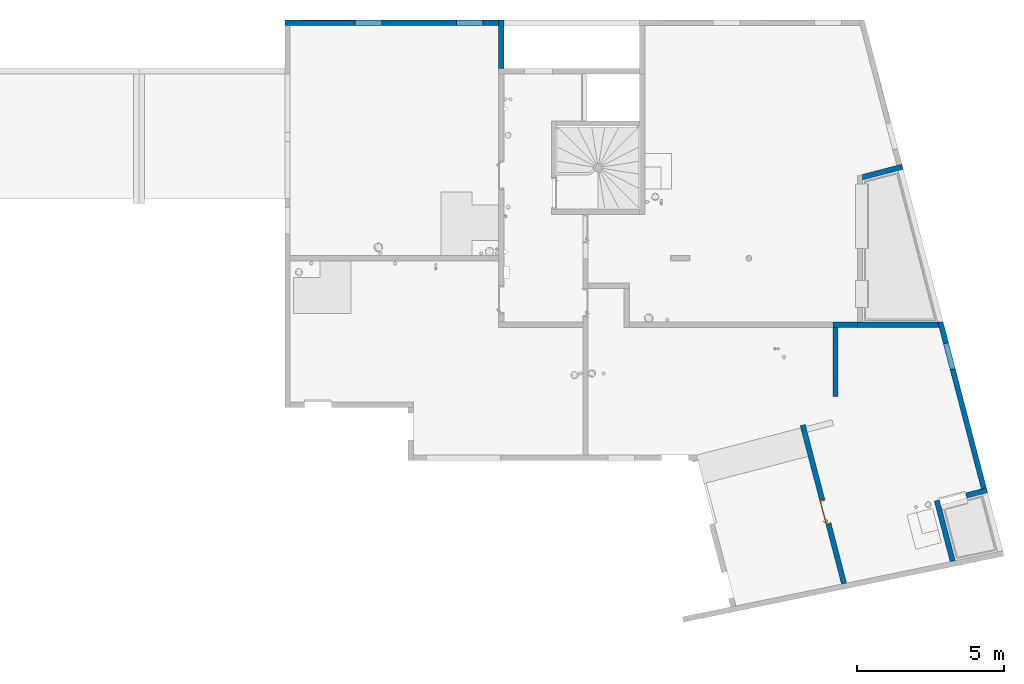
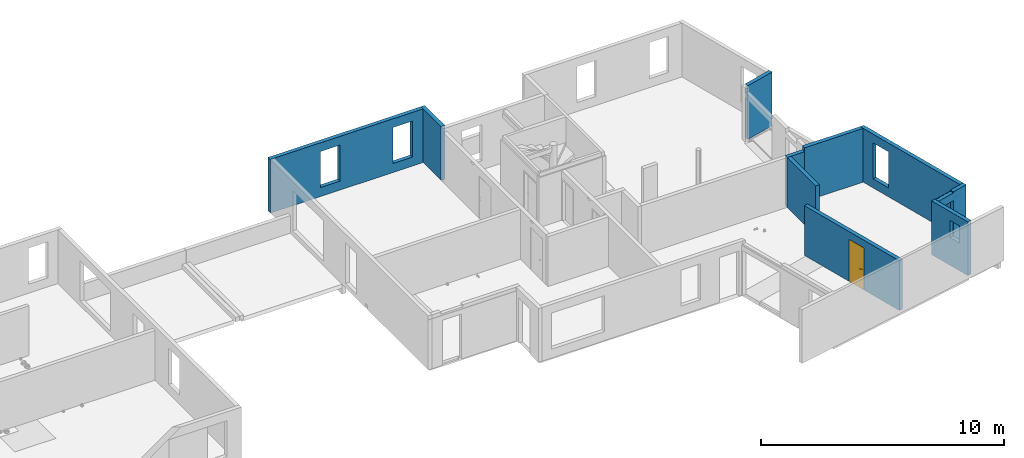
# One storey, part 15 of 24: 10 walls, 1 door, 12 openings.
"""IFC2X3 building model written with IfcOpenShell, lengths in centimetres."""

from ifc_helpers import new_model, entity, si_unit, converted_unit, derived_unit, direction, frame, frame_2d, origin, place, context, subcontext, project, spatial, polyline, rectangle, outline, extrude, faceted_brep, source, transform, mapped, material, material_list, layer, layer_set, layer_usage, type_object, type_shapes, element, fill, save


model = new_model("IFC2X3")

# Units and contexts
model_context = context("Model", 3, precision=0.001, world=origin(), true_north=direction((6.12303176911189e-17, 1.0)))
body_context = subcontext(model_context, "Body", "Model", "MODEL_VIEW")
ifc_project = project(units=[si_unit("LENGTHUNIT", "METRE", prefix="CENTI"), si_unit("AREAUNIT", "SQUARE_METRE"), si_unit("VOLUMEUNIT", "CUBIC_METRE"), converted_unit("PLANEANGLEUNIT", "DEGREE", entity("IfcRatioMeasure", 0.0174532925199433), si_unit("PLANEANGLEUNIT", "RADIAN"), dimensions=[0, 0, 0, 0, 0, 0, 0]), si_unit("MASSUNIT", "GRAM", prefix="KILO"), derived_unit("MASSDENSITYUNIT", [(si_unit("MASSUNIT", "GRAM", prefix="KILO"), 1), (si_unit("LENGTHUNIT", "METRE"), -3)]), si_unit("TIMEUNIT", "SECOND"), si_unit("FREQUENCYUNIT", "HERTZ"), si_unit("THERMODYNAMICTEMPERATUREUNIT", "DEGREE_CELSIUS"), derived_unit("THERMALTRANSMITTANCEUNIT", [(si_unit("MASSUNIT", "GRAM", prefix="KILO"), 1), (si_unit("THERMODYNAMICTEMPERATUREUNIT", "KELVIN"), -1), (si_unit("TIMEUNIT", "SECOND"), -3)]), derived_unit("VOLUMETRICFLOWRATEUNIT", [(si_unit("LENGTHUNIT", "METRE"), 3), (si_unit("TIMEUNIT", "SECOND"), -1)]), si_unit("ELECTRICCURRENTUNIT", "AMPERE"), si_unit("ELECTRICVOLTAGEUNIT", "VOLT"), si_unit("POWERUNIT", "WATT"), si_unit("FORCEUNIT", "NEWTON"), si_unit("ILLUMINANCEUNIT", "LUX"), si_unit("LUMINOUSFLUXUNIT", "LUMEN"), si_unit("LUMINOUSINTENSITYUNIT", "CANDELA"), derived_unit("USERDEFINED", [(si_unit("MASSUNIT", "GRAM", prefix="KILO"), -1), (si_unit("LENGTHUNIT", "METRE"), -2), (si_unit("TIMEUNIT", "SECOND"), 3), (si_unit("LUMINOUSFLUXUNIT", "LUMEN"), 1)]), derived_unit("LINEARVELOCITYUNIT", [(si_unit("LENGTHUNIT", "METRE"), 1), (si_unit("TIMEUNIT", "SECOND"), -1)]), si_unit("PRESSUREUNIT", "PASCAL"), derived_unit("USERDEFINED", [(si_unit("LENGTHUNIT", "METRE"), -2), (si_unit("MASSUNIT", "GRAM", prefix="KILO"), 1), (si_unit("TIMEUNIT", "SECOND"), -2)])], contexts=[model_context])

# Site, building, storey
site_placement = place(None, origin())
site = spatial("IfcSite", under=ifc_project, at=site_placement, Name="Default", CompositionType="ELEMENT")
building_placement = place(site_placement, origin())
building = spatial("IfcBuilding", under=site, at=building_placement, Name="CAGE 03", CompositionType="ELEMENT")
storey_placement = place(building_placement, frame((0.0, 0.0, 880.0)))
storey = spatial("IfcBuildingStorey", under=building, at=storey_placement, Name="R+3", CompositionType="ELEMENT", Elevation=880.0)

# Wall, openings
ifc_material_1 = material(Name="Béton, C25/30")
ifc_layer = layer(ifc_material_1, 18.0)
ifc_layer_set = layer_set([ifc_layer], Name="Mur de base:Voile BA 18")
ifc_layer_usage_1 = layer_usage(ifc_layer_set, "AXIS2", "POSITIVE", -9.0)
wall_type = type_object("IfcWallType", Name="Mur de base:Voile BA 18", PredefinedType="STANDARD", material=ifc_layer_set)
wall_1_placement = place(storey_placement, frame((11554.520882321, 3453.61460927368, 0.0), z_axis=(0.0, 0.0, 1.0), x_axis=(-0.252679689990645, 0.967549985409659, 0.0)))
wall_1 = element("IfcWallStandardCase", 1, at=wall_1_placement, inside=storey, type_object=wall_type, material=ifc_layer_usage_1, Name="Mur de base:Voile BA 18", ObjectType="Mur de base:Voile BA 18", context=body_context, shape_type="SweptSolid", body=[
    extrude(outline(polyline([(0.940291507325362, 9.0), (0.0, -9.0), (195.9684546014, -9.0), (213.9684546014, -9.0), (213.9684546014, 9.0), (0.940291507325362, 9.0)])), origin(), (0.0, 0.0, 1.0), 270.0),
])
opening_1_placement = place(wall_1_placement, origin())
element("IfcOpeningElement", 2, at=opening_1_placement, cuts=wall_1, Name="Mur de base:Voile BA 18", ObjectType="Opening", context=body_context, shape_type="SweptSolid", body=[
    extrude(rectangle(XDim=226.0, YDim=18.0000000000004, at=frame_2d((-4.2810199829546e-13, 1.13686837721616e-13), x_axis=(0.0, 1.0))), frame((204.968454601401, -100.0, 113.0), z_axis=(0.0, 1.0, 0.0), x_axis=(1.0, 0.0, 0.0)), (0.0, 0.0, 1.0), 91.0000000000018),
])
opening_2_placement = place(wall_1_placement, origin())
element("IfcOpeningElement", 3, at=opening_2_placement, cuts=wall_1, Name="Mur de base:Voile BA 18", ObjectType="Opening", context=body_context, shape_type="SweptSolid", body=[
    extrude(rectangle(XDim=226.0, YDim=18.0000000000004, at=frame_2d((-4.2810199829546e-13, 1.13686837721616e-13), x_axis=(0.0, 1.0))), frame((204.968454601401, -100.0, 383.0), z_axis=(0.0, 1.0, 0.0), x_axis=(1.0, 0.0, 0.0)), (0.0, 0.0, 1.0), 91.0000000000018),
])
opening_3_placement = place(wall_1_placement, frame((-421.952010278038, 12052.2347799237, 0.0), z_axis=(0.0, 0.0, 1.0), x_axis=(-0.252679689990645, -0.967549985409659, 0.0)))
element("IfcOpeningElement", 4, at=opening_3_placement, cuts=wall_1, Name="Mur de base:Voile BA 18", ObjectType="Opening", context=body_context, shape_type="SweptSolid", body=[
    extrude(rectangle(XDim=85.9999999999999, YDim=54.9999999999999, at=frame_2d((0.0, -4.2810199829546e-13), x_axis=(1.0, 0.0))), frame((11691.1087448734, 3569.35171335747, 183.0), z_axis=(-0.967549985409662, -0.252679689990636, 0.0), x_axis=(0.0, 0.0, 1.0)), (0.0, 0.0, 1.0), 304.799999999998),
])

ifc_layer_usage_2 = layer_usage(ifc_layer_set, "AXIS2", "POSITIVE", -9.0)
wall_2_placement = place(storey_placement, frame((11511.4374666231, 3654.20595174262, 0.0), z_axis=(0.0, 0.0, 1.0), x_axis=(0.967549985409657, 0.252679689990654, 0.0)))
wall_2 = element("IfcWallStandardCase", 5, at=wall_2_placement, inside=storey, type_object=wall_type, material=ifc_layer_usage_2, Name="Mur de base:Voile BA 18", ObjectType="Mur de base:Voile BA 18", context=body_context, shape_type="SweptSolid", body=[
    extrude(rectangle(XDim=165.000000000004, YDim=17.9999999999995, at=frame_2d((82.5000000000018, -2.64677169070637e-13), x_axis=(-1.0, 0.0))), origin(), (0.0, 0.0, 1.0), 270.0),
])
opening_4_placement = place(wall_2_placement, frame((-5.86752552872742, -7.46767138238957, 265.0)))
element("IfcOpeningElement", 6, at=opening_4_placement, cuts=wall_2, Name="Mur de base:Voile BA 18", ObjectType="Opening", context=body_context, shape_type="Brep", body=[
    faceted_brep([(5.86752552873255, 22.4676713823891, 2.49999999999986), (5.8675255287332, 15.467671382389, 0.971325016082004), (5.8675255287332, 15.467671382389, 0.0), (5.86752552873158, -1.53232861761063, 0.0), (5.86752552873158, -1.53232861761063, 5.0), (5.86752552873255, 22.4676713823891, 5.0), (96.8675255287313, 22.46767138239, 2.49999999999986), (96.8675255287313, 22.46767138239, 5.0), (96.8675255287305, -1.53232861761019, 5.0), (96.8675255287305, -1.53232861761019, 0.0), (96.8675255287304, 15.4676713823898, 0.0), (96.8675255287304, 15.4676713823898, 0.971325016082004)], [[[0, 1, 2, 3, 4, 5]], [[6, 7, 8, 9, 10, 11]], [[4, 3, 9, 8]], [[5, 4, 8, 7]], [[0, 5, 7, 6]], [[1, 0, 6, 11]], [[2, 1, 11, 10]], [[3, 2, 10, 9]]]),
])
opening_5_placement = place(wall_2_placement, origin())
element("IfcOpeningElement", 7, at=opening_5_placement, cuts=wall_2, Name="Mur de base:Voile BA 18", ObjectType="Opening", context=body_context, shape_type="SweptSolid", body=[
    extrude(rectangle(XDim=226.0, YDim=90.9999999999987, at=frame_2d((5.6843418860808e-14, -1.13686837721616e-13), x_axis=(0.0, 1.0))), frame((45.5000000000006, -161.4, 383.0), z_axis=(0.0, 1.0, 0.0), x_axis=(-1.0, 0.0, 0.0)), (0.0, 0.0, 1.0), 304.799999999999),
])
opening_6_placement = place(wall_2_placement, frame((-12061.2347799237, -626.920464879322, 0.0), z_axis=(0.0, 0.0, 1.0), x_axis=(0.967549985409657, -0.252679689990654, 0.0)))
element("IfcOpeningElement", 8, at=opening_6_placement, cuts=wall_2, Name="Mur de base:Voile BA 18", ObjectType="Opening", context=body_context, shape_type="SweptSolid", body=[
    extrude(rectangle(XDim=226.0, YDim=90.9999999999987, at=frame_2d((5.6843418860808e-14, -1.13686837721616e-13), x_axis=(0.0, 1.0))), frame((11596.2434929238, 3509.54030999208, 113.0), z_axis=(-0.252679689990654, 0.967549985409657, 0.0), x_axis=(-0.967549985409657, -0.252679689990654, 0.0)), (0.0, 0.0, 1.0), 304.799999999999),
])

ifc_layer_usage_3 = layer_usage(ifc_layer_set, "AXIS2", "POSITIVE", -9.0)
wall_3_placement = place(storey_placement, frame((11660.1011471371, 3702.33193324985, 0.0), z_axis=(0.0, 0.0, 1.0), x_axis=(-0.25267968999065, 0.967549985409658, 0.0)))
wall_3 = element("IfcWallStandardCase", 9, at=wall_3_placement, inside=storey, type_object=wall_type, material=ifc_layer_usage_3, Name="Mur de base:Voile BA 18", ObjectType="Mur de base:Voile BA 18", context=body_context, shape_type="SweptSolid", body=[
    extrude(outline(polyline([(580.904991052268, -9.0), (585.605765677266, 9.0), (567.002075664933, 9.0), (0.0, 9.0), (0.0, -9.0), (580.904991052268, -9.0)])), origin(), (0.0, 0.0, 1.0), 270.0),
])
opening_7_placement = place(wall_3_placement, origin())
element("IfcOpeningElement", 10, at=opening_7_placement, cuts=wall_3, Name="Mur de base:Voile BA 18", ObjectType="Recess", context=body_context, shape_type="SweptSolid", body=[
    extrude(rectangle(XDim=181.0, YDim=184.0, at=frame_2d((-4.2632564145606e-13, -5.6843418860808e-14), x_axis=(0.0, 1.0))), frame((1374.0, -9.0, 135.5), z_axis=(0.0, 1.0, 0.0), x_axis=(1.0, 0.0, 0.0)), (0.0, 0.0, 1.0), 2.00000000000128),
])
opening_8_placement = place(wall_3_placement, frame((-635.920464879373, 12217.2347799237, 0.0), z_axis=(0.0, 0.0, 1.0), x_axis=(-0.25267968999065, -0.967549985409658, 0.0)))
element("IfcOpeningElement", 11, at=opening_8_placement, cuts=wall_3, Name="Mur de base:Voile BA 18", ObjectType="Opening", context=body_context, shape_type="SweptSolid", body=[
    extrude(rectangle(XDim=181.0, YDim=91.0000000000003, at=frame_2d((-5.6843418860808e-14, -2.16715534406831e-13), x_axis=(1.0, 0.0))), frame((11699.1466784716, 4191.57385345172, 135.5), z_axis=(-0.967549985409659, -0.252679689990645, 0.0), x_axis=(0.0, 0.0, 1.0)), (0.0, 0.0, 1.0), 304.8),
])

# Walls
ifc_layer_usage_4 = layer_usage(ifc_layer_set, "AXIS2", "POSITIVE", -9.0)
wall_4_placement = place(storey_placement, frame((11508.1232885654, 4257.66066607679, 0.0), z_axis=(0.0, 0.0, 1.0), x_axis=(-1.0, 0.0, 0.0)))
element("IfcWallStandardCase", 12, at=wall_4_placement, inside=storey, type_object=wall_type, material=ifc_layer_usage_4, Name="Mur de base:Voile BA 18", ObjectType="Mur de base:Voile BA 18", context=body_context, shape_type="SweptSolid", body=[
    extrude(outline(polyline([(277.7574684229, -9.0), (277.7574684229, 9.0), (0.0, 9.0), (4.70077462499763, -9.0), (259.7574684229, -9.0), (277.7574684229, -9.0)])), origin(), (0.0, 0.0, 1.0), 270.0),
])
ifc_layer_usage_5 = layer_usage(ifc_layer_set, "AXIS2", "POSITIVE", -9.0)
wall_5_placement = place(storey_placement, frame((11155.8658201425, 4248.66066607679, 0.0), z_axis=(0.0, 0.0, 1.0), x_axis=(0.0, -1.0, 0.0)))
element("IfcWallStandardCase", 13, at=wall_5_placement, inside=storey, type_object=wall_type, material=ifc_layer_usage_5, Name="Mur de base:Voile BA 18", ObjectType="Mur de base:Voile BA 18", context=body_context, shape_type="SweptSolid", body=[
    extrude(rectangle(XDim=234.000000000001, YDim=17.9999999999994, at=frame_2d((117.0, 2.90434343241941e-13), x_axis=(-1.0, 0.0))), origin(), (0.0, 0.0, 1.0), 250.0),
])

# Wall, opening, door
ifc_layer_usage_6 = layer_usage(ifc_layer_set, "AXIS2", "POSITIVE", -9.0)
wall_6_placement = place(storey_placement, frame((11044.4501025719, 3916.7265258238, 0.0), z_axis=(0.0, 0.0, 1.0), x_axis=(0.252679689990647, -0.967549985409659, 0.0)))
wall_6 = element("IfcWallStandardCase", 14, at=wall_6_placement, inside=storey, type_object=wall_type, material=ifc_layer_usage_6, Name="Mur de base:Voile BA 18", ObjectType="Mur de base:Voile BA 18", context=body_context, shape_type="SweptSolid", body=[
    extrude(outline(polyline([(0.0, -9.0), (556.360399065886, -9.0), (557.300690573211, 9.0), (0.0, 9.0), (0.0, -9.0)])), origin(), (0.0, 0.0, 1.0), 250.0),
])
opening_9_placement = place(wall_6_placement, frame((349.0, 9.0, 0.0)))
opening_9 = element("IfcOpeningElement", 15, at=opening_9_placement, cuts=wall_6, Name="Int. Simple:HB83:1", ObjectType="Opening", context=body_context, shape_type="SweptSolid", body=[
    extrude(rectangle(XDim=210.000000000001, YDim=86.9999999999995, at=frame_2d((105.000000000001, 43.4999999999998), x_axis=(1.0, 0.0))), frame((0.0, 0.0, 0.0), z_axis=(0.0, -1.0, 0.0), x_axis=(0.0, 0.0, 1.0)), (0.0, 0.0, 1.0), 18.0),
])
ifc_material_2 = material(Name="Finition Peinture - Blanc satiné")
ifc_material_3 = material(Name="Bois - Panneau de porte")
ifc_material_4 = material(Name="Bois - Cadre de porte")
ifc_material_list_1 = material_list([ifc_material_2, ifc_material_3, ifc_material_4])
ifc_material_list_2 = material_list([ifc_material_2, ifc_material_3, ifc_material_4])
door_style = type_object("IfcDoorStyle", Name="HB83", ConstructionType="NOTDEFINED", OperationType="SINGLE_SWING_RIGHT", ParameterTakesPrecedence=False, Sizeable=False, material=ifc_material_list_2)
shared_shape = source(origin(), body_context, "Body", "Brep", [
    faceted_brep([(86.5000000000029, -0.500000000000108, 87.0), (86.5000000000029, -0.500000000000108, 108.0), (85.535276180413, -0.500000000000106, 108.399601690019), (84.5000000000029, -0.500000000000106, 108.535898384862), (83.4647238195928, -0.500000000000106, 108.399601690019), (82.500000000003, -0.500000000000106, 108.0), (82.5000000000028, -0.500000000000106, 87.0), (83.4647238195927, -0.500000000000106, 86.6003983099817), (84.5000000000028, -0.500000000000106, 86.464101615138), (85.5352761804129, -0.500000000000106, 86.6003983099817), (86.5000000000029, 0.0, 108.0), (86.5000000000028, 0.0, 87.0), (85.5352761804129, 0.0, 86.6003983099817), (84.5000000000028, 0.0, 86.464101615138), (83.4647238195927, 0.0, 86.6003983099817), (82.5000000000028, 0.0, 87.0), (82.500000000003, 0.0, 108.0), (83.4647238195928, 0.0, 108.399601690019), (84.5000000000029, 0.0, 108.535898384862), (85.535276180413, 0.0, 108.399601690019)], [[[0, 1, 2, 3, 4, 5, 6, 7, 8, 9]], [[10, 11, 12, 13, 14, 15, 16, 17, 18, 19]], [[9, 12, 11, 0]], [[8, 13, 12, 9]], [[7, 14, 13, 8]], [[7, 6, 15, 14]], [[15, 6, 5, 16]], [[4, 17, 16, 5]], [[3, 18, 17, 4]], [[2, 19, 18, 3]], [[2, 1, 10, 19]], [[11, 10, 1, 0]]]),
    faceted_brep([(86.5000000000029, 3.0, 87.0), (86.5000000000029, 3.0, 108.0), (85.535276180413, 3.0, 108.399601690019), (84.500000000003, 3.0, 108.535898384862), (83.4647238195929, 3.0, 108.399601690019), (82.500000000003, 3.0, 108.0), (82.5000000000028, 3.0, 87.0), (83.4647238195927, 3.0, 86.6003983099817), (84.5000000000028, 3.0, 86.464101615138), (85.5352761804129, 3.0, 86.6003983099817), (84.500000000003, 3.49999999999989, 108.535898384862), (85.535276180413, 3.49999999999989, 108.399601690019), (86.5000000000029, 3.49999999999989, 108.0), (86.5000000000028, 3.49999999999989, 87.0), (85.5352761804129, 3.49999999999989, 86.6003983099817), (84.5000000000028, 3.49999999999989, 86.464101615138), (83.4647238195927, 3.49999999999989, 86.6003983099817), (82.5000000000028, 3.49999999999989, 87.0), (82.500000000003, 3.49999999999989, 108.0), (83.4647238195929, 3.49999999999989, 108.399601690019)], [[[0, 1, 2, 3, 4, 5, 6, 7, 8, 9]], [[10, 11, 12, 13, 14, 15, 16, 17, 18, 19]], [[4, 19, 18, 5]], [[3, 10, 19, 4]], [[2, 11, 10, 3]], [[2, 1, 12, 11]], [[13, 12, 1, 0]], [[9, 14, 13, 0]], [[8, 15, 14, 9]], [[7, 16, 15, 8]], [[7, 6, 17, 16]], [[17, 6, 5, 18]]]),
    faceted_brep([(84.297470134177, -0.500000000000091, 100.778044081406), (84.7025298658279, -0.500000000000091, 100.778044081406), (85.1000000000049, -0.500000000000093, 100.699999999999), (85.1000000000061, -0.500000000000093, 99.299999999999), (84.702529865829, -0.500000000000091, 99.2219559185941), (84.297470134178, -0.500000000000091, 99.2219559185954), (83.9000000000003, -0.500000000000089, 99.3000000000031), (83.9000000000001, -0.500000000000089, 100.7), (84.7025298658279, -3.1004575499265, 100.778044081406), (85.1000000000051, -3.26509507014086, 100.7), (84.297470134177, -2.93267631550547, 100.778044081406), (82.9298602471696, -4.30028620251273, 100.778044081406), (83.0976414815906, -4.70534593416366, 100.778044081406), (83.9000000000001, -2.76803879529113, 100.7), (83.9000000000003, -2.76803879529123, 99.3000000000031), (84.297470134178, -2.93267631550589, 99.2219559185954), (84.702529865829, -3.10045754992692, 99.2219559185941), (83.097641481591, -4.70534593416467, 99.2219559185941), (82.92986024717, -4.30028620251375, 99.2219559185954), (85.1000000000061, -3.26509507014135, 99.299999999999), (83.2622790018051, -5.10281606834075, 100.7), (82.7652227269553, -3.90281606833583, 100.7), (82.7652227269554, -3.90281606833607, 99.3000000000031), (83.2622790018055, -5.10281606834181, 99.299999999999), (74.4981359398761, -5.1028160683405, 100.7), (74.4981359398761, -4.7053459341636, 100.778044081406), (74.4981359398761, -4.30028620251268, 100.778044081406), (74.4981359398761, -3.90281606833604, 100.699999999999), (74.4981359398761, -3.90281606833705, 99.3000000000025), (74.4981359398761, -4.30028620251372, 99.2219559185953), (74.4981359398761, -4.70534593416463, 99.2219559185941), (74.4981359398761, -5.10281606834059, 99.2999999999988), (78.7139980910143, -4.50281606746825, 100.78786867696), (79.2692302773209, -5.10281606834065, 100.7), (78.6316793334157, -3.90281606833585, 100.7), (78.6316793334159, -3.90281606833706, 99.3000000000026), (78.7139981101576, -4.50281607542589, 99.2121313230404), (79.2692299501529, -5.10281606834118, 99.2999999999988)], [[[0, 1, 2, 3, 4, 5, 6, 7]], [[2, 1, 8, 9]], [[1, 0, 10, 11, 12, 8]], [[0, 7, 13, 10]], [[14, 13, 7, 6]], [[5, 15, 14, 6]], [[5, 4, 16, 17, 18, 15]], [[3, 19, 16, 4]], [[9, 19, 3, 2]], [[9, 8, 12, 20]], [[10, 13, 21, 11]], [[22, 21, 13, 14]], [[14, 15, 18, 22]], [[16, 19, 23, 17]], [[20, 23, 19, 9]], [[24, 25, 26, 27, 28, 29, 30, 31]], [[32, 25, 33]], [[33, 25, 24]], [[33, 20, 12]], [[11, 34, 32]], [[34, 11, 21]], [[27, 26, 34]], [[32, 26, 25]], [[32, 34, 26]], [[32, 33, 12]], [[11, 32, 12]], [[21, 22, 35, 28, 27, 34]], [[36, 29, 35]], [[30, 36, 37]], [[18, 35, 22]], [[29, 28, 35]], [[30, 37, 31]], [[37, 17, 23]], [[36, 17, 37]], [[36, 18, 17]], [[36, 35, 18]], [[29, 36, 30]], [[23, 20, 33, 24, 31, 37]]]),
    faceted_brep([(84.2974701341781, 3.49999999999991, 99.2219559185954), (84.702529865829, 3.49999999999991, 99.2219559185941), (85.1000000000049, 3.4999999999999, 99.2999999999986), (85.1000000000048, 3.4999999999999, 100.7), (84.7025298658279, 3.49999999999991, 100.778044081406), (84.297470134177, 3.49999999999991, 100.778044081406), (83.9000000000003, 3.49999999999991, 100.7), (83.9000000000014, 3.49999999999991, 99.3000000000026), (83.9000000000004, 5.74852045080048, 100.7), (83.9000000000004, 5.74852045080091, 99.3000000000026), (84.2974701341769, 5.91315797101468, 100.778044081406), (84.7025298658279, 6.08093920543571, 100.778044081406), (83.0838906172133, 7.69957845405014, 100.778044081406), (82.9161093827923, 7.29451872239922, 100.778044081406), (85.1000000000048, 6.24557672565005, 100.7), (85.1000000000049, 6.2455767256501, 99.2999999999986), (84.702529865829, 6.08093920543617, 99.2219559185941), (84.2974701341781, 5.91315797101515, 99.2219559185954), (82.9161093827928, 7.29451872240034, 99.2219559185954), (83.0838906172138, 7.69957845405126, 99.2219559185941), (82.7514718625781, 6.89704858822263, 100.7), (82.7514718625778, 6.89704858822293, 99.3000000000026), (83.2485281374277, 8.09704858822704, 100.7), (83.2485281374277, 8.09704858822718, 99.2999999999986), (74.4954216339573, 7.29451872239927, 100.778044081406), (74.4954216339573, 7.6995784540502, 100.778044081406), (74.4954216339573, 8.0970485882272, 100.7), (74.4954216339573, 8.09704858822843, 99.299999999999), (74.4954216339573, 7.6995784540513, 99.2219559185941), (74.4954216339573, 7.29451872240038, 99.2219559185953), (74.4954216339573, 6.89704858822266, 99.3000000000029), (74.4954216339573, 6.89704858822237, 100.7), (78.6234467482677, 6.89704858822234, 100.7), (78.6234479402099, 6.89704858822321, 99.3000000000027), (78.7057655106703, 7.4970485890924, 100.78786867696), (79.255479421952, 8.09704858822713, 100.7), (79.2554794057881, 8.09704858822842, 99.299999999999), (78.7057654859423, 7.49704858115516, 99.2121313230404)], [[[0, 1, 2, 3, 4, 5, 6, 7]], [[8, 9, 7, 6]], [[5, 10, 8, 6]], [[5, 4, 11, 12, 13, 10]], [[3, 14, 11, 4]], [[14, 3, 2, 15]], [[2, 1, 16, 15]], [[1, 0, 17, 18, 19, 16]], [[0, 7, 9, 17]], [[20, 21, 9, 8]], [[8, 10, 13, 20]], [[14, 22, 12, 11]], [[23, 22, 14, 15]], [[15, 16, 19, 23]], [[17, 9, 21, 18]], [[24, 25, 26, 27, 28, 29, 30, 31]], [[20, 32, 31, 30, 33, 21]], [[34, 24, 32]], [[25, 34, 35]], [[13, 32, 20]], [[24, 31, 32]], [[25, 35, 26]], [[35, 12, 22]], [[34, 12, 35]], [[34, 13, 12]], [[34, 32, 13]], [[24, 34, 25]], [[22, 23, 36, 27, 26, 35]], [[37, 28, 36]], [[36, 28, 27]], [[36, 23, 19]], [[18, 33, 37]], [[33, 18, 21]], [[30, 29, 33]], [[37, 29, 28]], [[37, 33, 29]], [[37, 36, 19]], [[18, 37, 19]]]),
    faceted_brep([(90.5000000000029, 3.0, 206.5), (90.5000000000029, 3.0, 0.0), (10.5000000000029, 3.0, 0.0), (10.5000000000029, 3.0, 206.5), (90.5000000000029, 0.0, 206.5), (10.5000000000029, 0.0, 206.5), (10.5000000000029, 0.0, 0.0), (90.5000000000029, 0.0, 0.0)], [[[0, 1, 2, 3]], [[4, 5, 6, 7]], [[3, 5, 4, 0]], [[2, 6, 5, 3]], [[1, 7, 6, 2]], [[0, 4, 7, 1]]]),
    faceted_brep([(94.0, 0.0, 0.0), (90.5000000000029, 0.0, 0.0), (90.5000000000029, 3.0, 0.0), (89.0, 3.0, 0.0), (89.0, 18.0, 0.0), (94.0, 18.0, 0.0), (94.0, 18.0, 210.0), (94.0, 0.0, 210.0), (89.0, 18.0, 205.0), (12.0, 18.0, 205.0), (12.0, 18.0, 0.0), (7.0, 18.0, 0.0), (7.0, 18.0, 210.0), (89.0, 3.0, 205.0), (90.5000000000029, 3.0, 206.5), (10.5000000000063, 3.0, 206.5), (10.5000000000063, 3.0, 0.0), (12.0, 3.0, 0.0), (12.0, 3.0, 205.0), (90.5000000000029, 0.0, 206.5), (7.0, 0.0, 210.0), (7.0, 0.0, 0.0), (10.5000000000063, 0.0, 0.0), (10.5000000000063, 0.0, 206.5)], [[[0, 1, 2, 3, 4, 5]], [[5, 6, 7, 0]], [[4, 8, 9, 10, 11, 12, 6, 5]], [[3, 13, 8, 4]], [[2, 14, 15, 16, 17, 18, 13, 3]], [[1, 19, 14, 2]], [[0, 7, 20, 21, 22, 23, 19, 1]], [[12, 11, 21, 20]], [[21, 11, 10, 17, 16, 22]], [[18, 17, 10, 9]], [[23, 22, 16, 15]], [[6, 12, 20, 7]], [[13, 18, 9, 8]], [[19, 23, 15, 14]]]),
    faceted_brep([(92.5000000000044, 18.0, 0.0), (92.5000000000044, 18.5000000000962, 0.0), (95.5000000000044, 18.5000000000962, 0.0), (95.5000000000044, 18.0, 0.0), (95.5000000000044, 18.0, 211.500000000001), (5.50000000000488, 18.0, 211.500000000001), (5.50000000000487, 18.0, 0.0), (8.50000000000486, 18.0, 0.0), (8.50000000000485, 18.0, 208.500000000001), (92.5000000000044, 18.0, 208.500000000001), (95.5000000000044, 18.5000000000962, 211.500000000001), (92.5000000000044, 18.5000000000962, 208.500000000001), (8.50000000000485, 18.5000000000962, 208.500000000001), (8.50000000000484, 18.5000000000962, 0.0), (5.50000000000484, 18.5000000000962, 0.0), (5.50000000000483, 18.5000000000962, 211.500000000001)], [[[0, 1, 2, 3]], [[3, 4, 5, 6, 7, 8, 9, 0]], [[2, 10, 4, 3]], [[1, 11, 12, 13, 14, 15, 10, 2]], [[0, 9, 11, 1]], [[7, 6, 14, 13]], [[8, 7, 13, 12]], [[15, 14, 6, 5]], [[10, 15, 5, 4]], [[9, 8, 12, 11]]]),
    faceted_brep([(95.5000000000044, -0.5, 0.0), (95.5000000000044, -0.5, 211.500000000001), (5.50000000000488, -0.5, 211.500000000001), (5.50000000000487, -0.5, 0.0), (8.50000000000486, -0.5, 0.0), (8.50000000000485, -0.5, 208.500000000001), (92.5000000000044, -0.5, 208.500000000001), (92.5000000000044, -0.5, 0.0), (95.5000000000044, 0.0, 0.0), (95.5000000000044, 0.0, 211.500000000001), (92.5000000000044, 0.0, 0.0), (92.5000000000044, 0.0, 208.500000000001), (8.50000000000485, 0.0, 208.500000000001), (8.50000000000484, 0.0, 0.0), (5.50000000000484, 0.0, 0.0), (5.50000000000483, 0.0, 211.500000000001)], [[[0, 1, 2, 3, 4, 5, 6, 7]], [[8, 9, 1, 0]], [[10, 11, 12, 13, 14, 15, 9, 8]], [[7, 6, 11, 10]], [[5, 4, 13, 12]], [[15, 14, 3, 2]], [[9, 15, 2, 1]], [[6, 5, 12, 11]], [[4, 3, 14, 13]], [[7, 10, 8, 0]]]),
])
type_shapes(door_style, [shared_shape])
door_placement = place(opening_9_placement, frame((-94.0, -18.0, 0.0)))
door = element("IfcDoor", 16, at=door_placement, inside=storey, type_object=door_style, material=ifc_material_list_1, Name="Int. Simple:HB83", ObjectType="HB83", OverallHeight=210.000000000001, OverallWidth=86.9999999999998, context=body_context, shape_type="MappedRepresentation", body=[
    mapped(shared_shape, transform((0.0, 0.0, 0.0), scale=1.0)),
])
fill(opening_9, door)

# Wall
ifc_layer_usage_7 = layer_usage(ifc_layer_set, "AXIS2", "NEGATIVE", 9.0)
wall_7_placement = place(storey_placement, frame((11246.0917029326, 4759.00935292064, 0.0), z_axis=(0.0, 0.0, 1.0), x_axis=(0.96754998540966, 0.252679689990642, 0.0)))
element("IfcWallStandardCase", 17, at=wall_7_placement, inside=storey, type_object=wall_type, material=ifc_layer_usage_7, Name="Mur de base:Voile BA 18", ObjectType="Mur de base:Voile BA 18", context=body_context, shape_type="SweptSolid", body=[
    extrude(outline(polyline([(142.57390887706, -9.0), (142.57390887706, 9.0), (124.573908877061, 9.0), (4.70077462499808, 9.0), (0.0, -9.0), (142.57390887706, -9.0)])), origin(), (0.0, 0.0, 1.0), 270.0),
])

# Wall, openings
ifc_layer_usage_8 = layer_usage(ifc_layer_set, "AXIS2", "POSITIVE", -9.0)
wall_8_placement = place(storey_placement, frame((10010.3658201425, 5284.66066607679, 0.0), z_axis=(0.0, 0.0, 1.0), x_axis=(-1.0, 0.0, 0.0)))
wall_8 = element("IfcWallStandardCase", 18, at=wall_8_placement, inside=storey, type_object=wall_type, material=ifc_layer_usage_8, Name="Mur de base:Voile BA 18", ObjectType="Mur de base:Voile BA 18", context=body_context, shape_type="SweptSolid", body=[
    extrude(rectangle(XDim=725.999999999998, YDim=17.9999999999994, at=frame_2d((362.999999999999, -3.64153152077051e-14), x_axis=(-1.0, 0.0))), origin(), (0.0, 0.0, 1.0), 270.0),
])
opening_10_placement = place(wall_8_placement, origin())
element("IfcOpeningElement", 19, at=opening_10_placement, cuts=wall_8, Name="Mur de base:Voile BA 18", ObjectType="Recess", context=body_context, shape_type="SweptSolid", body=[
    extrude(rectangle(XDim=181.0, YDim=184.0, at=frame_2d((0.0, -5.6843418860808e-14), x_axis=(0.0, 1.0))), frame((579.0, -9.0, 135.500000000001), z_axis=(0.0, 1.0, 0.0), x_axis=(1.0, 0.0, 0.0)), (0.0, 0.0, 1.0), 1.99999999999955),
])
opening_11_placement = place(wall_8_placement, frame((10010.3658201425, 5284.66066607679, 0.0), z_axis=(0.0, 0.0, 1.0), x_axis=(-1.0, 0.0, 0.0)))
element("IfcOpeningElement", 20, at=opening_11_placement, cuts=wall_8, Name="Mur de base:Voile BA 18", ObjectType="Opening", context=body_context, shape_type="SweptSolid", body=[
    extrude(rectangle(XDim=181.0, YDim=90.9999999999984, at=frame_2d((8.66862137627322e-13, 0.0), x_axis=(0.0, 1.0))), frame((9568.86582014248, 5428.06066607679, 135.5), z_axis=(0.0, -1.0, 0.0), x_axis=(1.0, 0.0, 0.0)), (0.0, 0.0, 1.0), 304.8),
])
opening_12_placement = place(wall_8_placement, frame((10010.3658201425, 5284.66066607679, 0.0), z_axis=(0.0, 0.0, 1.0), x_axis=(-1.0, 0.0, 0.0)))
element("IfcOpeningElement", 21, at=opening_12_placement, cuts=wall_8, Name="Mur de base:Voile BA 18", ObjectType="Opening", context=body_context, shape_type="SweptSolid", body=[
    extrude(rectangle(XDim=181.0, YDim=91.0000000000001, at=frame_2d((0.0, 0.0), x_axis=(0.0, 1.0))), frame((9912.86582014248, 5428.06066607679, 135.5), z_axis=(0.0, -1.0, 0.0), x_axis=(1.0, 0.0, 0.0)), (0.0, 0.0, 1.0), 304.8),
])

# Walls
ifc_layer_usage_9 = layer_usage(ifc_layer_set, "AXIS2", "POSITIVE", -9.0)
wall_9_placement = place(storey_placement, frame((11230.3658201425, 4257.66066607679, 0.0), z_axis=(0.0, 0.0, 1.0), x_axis=(-1.0, 0.0, 0.0)))
element("IfcWallStandardCase", 22, at=wall_9_placement, inside=storey, type_object=wall_type, material=ifc_layer_usage_9, Name="Mur de base:Voile BA 18", ObjectType="Mur de base:Voile BA 18", context=body_context, shape_type="SweptSolid", body=[
    extrude(rectangle(XDim=83.5000000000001, YDim=17.9999999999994, at=frame_2d((41.75, 1.31450406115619e-13), x_axis=(-1.0, 0.0))), origin(), (0.0, 0.0, 1.0), 250.0),
])
ifc_layer_usage_10 = layer_usage(ifc_layer_set, "AXIS2", "POSITIVE", -9.0)
wall_10_placement = place(storey_placement, frame((10019.3658201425, 5128.66066607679, 0.0), z_axis=(0.0, 0.0, 1.0), x_axis=(0.0, 1.0, 0.0)))
element("IfcWallStandardCase", 23, at=wall_10_placement, inside=storey, type_object=wall_type, material=ifc_layer_usage_10, Name="Mur de base:Voile BA 18", ObjectType="Mur de base:Voile BA 18", context=body_context, shape_type="SweptSolid", body=[
    extrude(rectangle(XDim=165.000000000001, YDim=17.9999999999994, at=frame_2d((82.5000000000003, 1.74082970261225e-13), x_axis=(-1.0, 0.0))), origin(), (0.0, 0.0, 1.0), 270.0),
])

save(model, "model.ifc")
